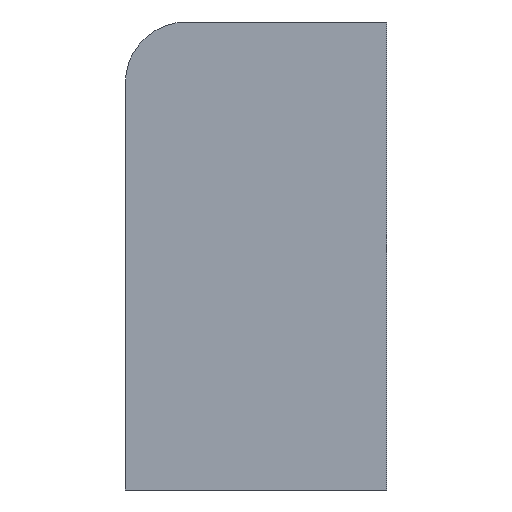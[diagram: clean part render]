
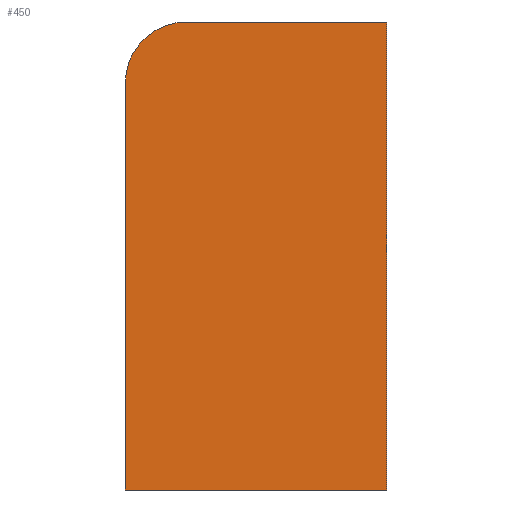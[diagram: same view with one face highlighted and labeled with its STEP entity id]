
A CAD part, left-side view. The second image highlights one B-rep face of the part: STEP entity #450.
In plain terms, the highlighted planar face has unit normal (-1, 0, 0).
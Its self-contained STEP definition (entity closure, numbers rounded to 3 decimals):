
#233=CARTESIAN_POINT('Vertex',(0.,0.,145.)) ;
#236=CARTESIAN_POINT('Line Origine',(0.,0.,72.5)) ;
#240=CARTESIAN_POINT('Vertex',(0.,0.,0.)) ;
#329=CARTESIAN_POINT('Vertex',(0.,81.,0.)) ;
#332=CARTESIAN_POINT('Line Origine',(0.,81.,63.)) ;
#336=CARTESIAN_POINT('Vertex',(0.,81.,126.)) ;
#396=CARTESIAN_POINT('Line Origine',(0.,40.5,0.)) ;
#414=CARTESIAN_POINT('Axis2P3D Location',(0.,62.,126.)) ;
#418=CARTESIAN_POINT('Vertex',(0.,62.,145.)) ;
#433=CARTESIAN_POINT('Axis2P3D Location',(0.,81.,0.)) ;
#438=CARTESIAN_POINT('Line Origine',(0.,31.,145.)) ;
#237=DIRECTION('Vector Direction',(0.,0.,1.)) ;
#333=DIRECTION('Vector Direction',(0.,0.,1.)) ;
#397=DIRECTION('Vector Direction',(0.,-1.,0.)) ;
#415=DIRECTION('Axis2P3D Direction',(-1.,0.,0.)) ;
#434=DIRECTION('Axis2P3D Direction',(-1.,0.,0.)) ;
#435=DIRECTION('Axis2P3D XDirection',(0.,-1.,0.)) ;
#439=DIRECTION('Vector Direction',(0.,1.,0.)) ;
#416=AXIS2_PLACEMENT_3D('Circle Axis2P3D',#414,#415,$) ;
#436=AXIS2_PLACEMENT_3D('Plane Axis2P3D',#433,#434,#435) ;
#444=ORIENTED_EDGE('',*,*,#242,.T.) ;
#445=ORIENTED_EDGE('',*,*,#442,.T.) ;
#446=ORIENTED_EDGE('',*,*,#420,.T.) ;
#447=ORIENTED_EDGE('',*,*,#338,.F.) ;
#448=ORIENTED_EDGE('',*,*,#400,.T.) ;
#238=VECTOR('Line Direction',#237,1.) ;
#334=VECTOR('Line Direction',#333,1.) ;
#398=VECTOR('Line Direction',#397,1.) ;
#440=VECTOR('Line Direction',#439,1.) ;
#450=ADVANCED_FACE('PartBody',(#449),#437,.T.) ;
#417=CIRCLE('generated circle',#416,19.) ;
#242=EDGE_CURVE('',#241,#234,#239,.T.) ;
#338=EDGE_CURVE('',#330,#337,#335,.T.) ;
#400=EDGE_CURVE('',#330,#241,#399,.T.) ;
#420=EDGE_CURVE('',#419,#337,#417,.T.) ;
#442=EDGE_CURVE('',#234,#419,#441,.T.) ;
#443=EDGE_LOOP('',(#444,#445,#446,#447,#448)) ;
#449=FACE_OUTER_BOUND('',#443,.T.) ;
#239=LINE('Line',#236,#238) ;
#335=LINE('Line',#332,#334) ;
#399=LINE('Line',#396,#398) ;
#441=LINE('Line',#438,#440) ;
#437=PLANE('',#436) ;
#234=VERTEX_POINT('',#233) ;
#241=VERTEX_POINT('',#240) ;
#330=VERTEX_POINT('',#329) ;
#337=VERTEX_POINT('',#336) ;
#419=VERTEX_POINT('',#418) ;
